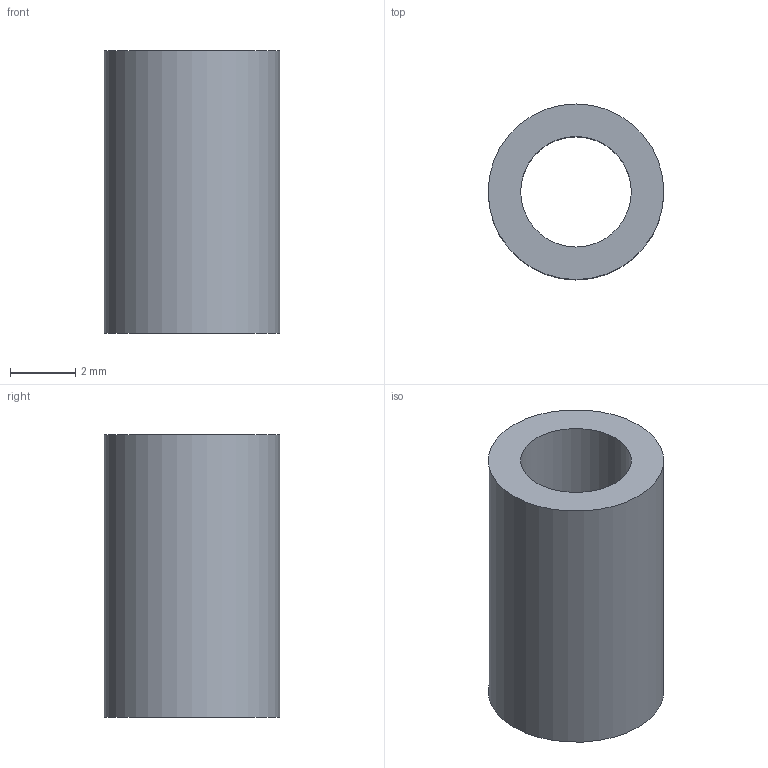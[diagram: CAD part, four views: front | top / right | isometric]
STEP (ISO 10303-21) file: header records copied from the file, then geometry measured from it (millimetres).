
FILE_DESCRIPTION(('Open CASCADE Model'),'2;1');
FILE_NAME('Open CASCADE Shape Model','2026-10-12T22:10:17',('Author'),( 'Open CASCADE'),'Open CASCADE STEP processor 7.9','Open CASCADE 7.9' ,'Unknown');
FILE_SCHEMA(('AUTOMOTIVE_DESIGN { 1 0 10303 214 1 1 1 1 }'));
Length unit declared in the file: millimetre
Products named in the file (1): Open CASCADE STEP translator 7.9 17
Bounding box: 5.4 x 5.4 x 8.7 mm (x, y, z)
Volume: 120.3 mm3; surface area: 268.2 mm2
Topology: 1 solids, 1 shells, 4 faces, 6 edges, 4 vertices
Faces by surface type: cylinder 2, plane 2
Full cylindrical faces by diameter (mm): 3.4 x1, 5.4 x1
Entity records: 186 total; most frequent: DIRECTION 32, CARTESIAN_POINT 27, ORIENTED_EDGE 12, PCURVE 12, DEFINITIONAL_REPRESENTATION 12, LINE 10, VECTOR 10, AXIS2_PLACEMENT_3D 9
